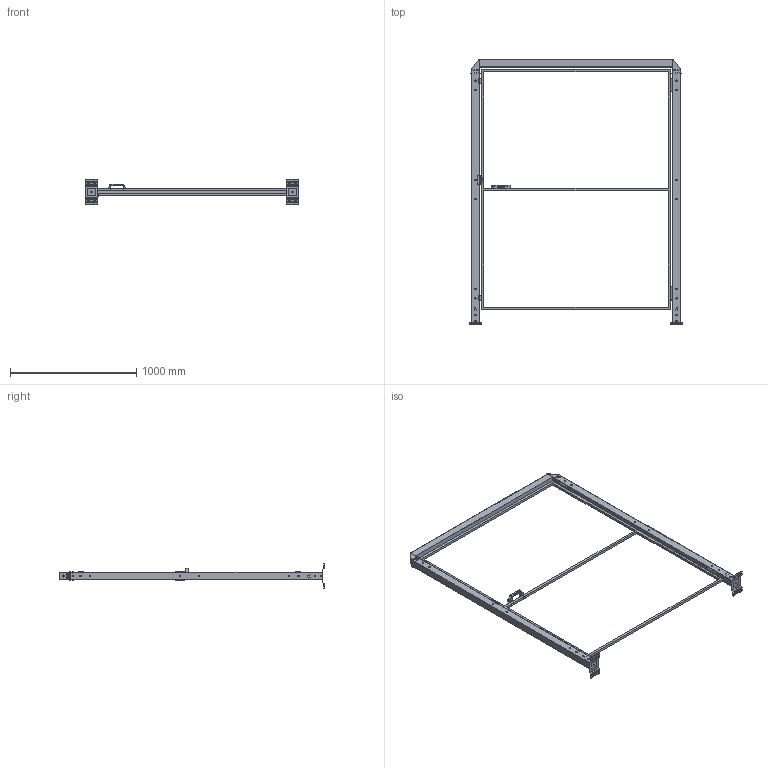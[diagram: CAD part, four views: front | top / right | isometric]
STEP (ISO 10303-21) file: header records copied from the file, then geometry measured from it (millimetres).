
FILE_DESCRIPTION(('STEP AP242'),'1');
FILE_NAME('vfda_bscndr2_15002020.stp','2025-01-23T12:21:37',('TraceParts'),('TraceParts S.A.'),'Spatial InterOp 3D',' ',' ');
FILE_SCHEMA(('AP242_MANAGED_MODEL_BASED_3D_ENGINEERING_MIM_LF {1 0 10303 442 1 1 4}'));
Length unit declared in the file: millimetre
Products named in the file (1): vfda_bscndr2_15002020_1
Bounding box: 1690 x 2101 x 192 mm (x, y, z)
Volume: 5654432.7 mm3; surface area: 3494436.2 mm2
Topology: 12 solids, 12 shells, 1874 faces, 5016 edges, 3212 vertices
Faces by surface type: plane 906, cylinder 628, bspline 236, cone 60, torus 40, sphere 4
Entity records: 75648 total; most frequent: CARTESIAN_POINT 13827, ORIENTED_EDGE 10024, DIRECTION 9202, EDGE_CURVE 5012, VERTEX_POINT 3212, LINE 3072, VECTOR 3072, AXIS2_PLACEMENT_3D 3065
